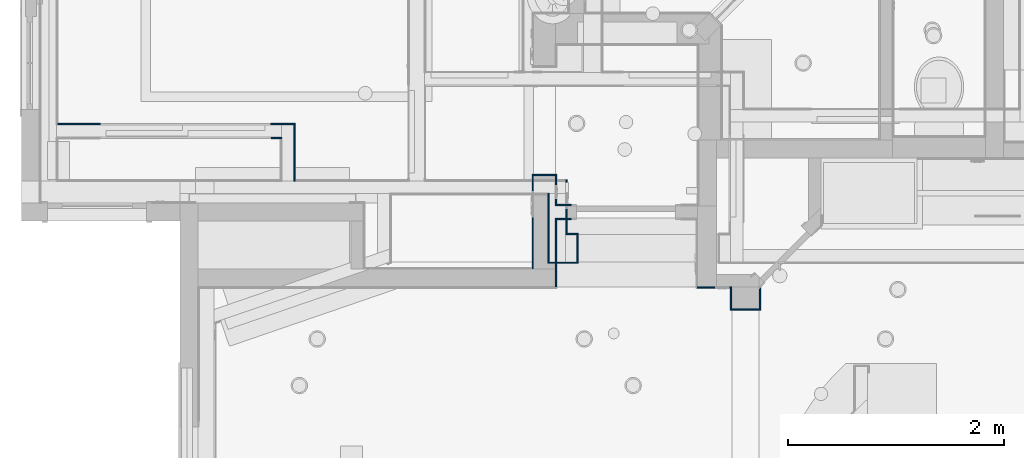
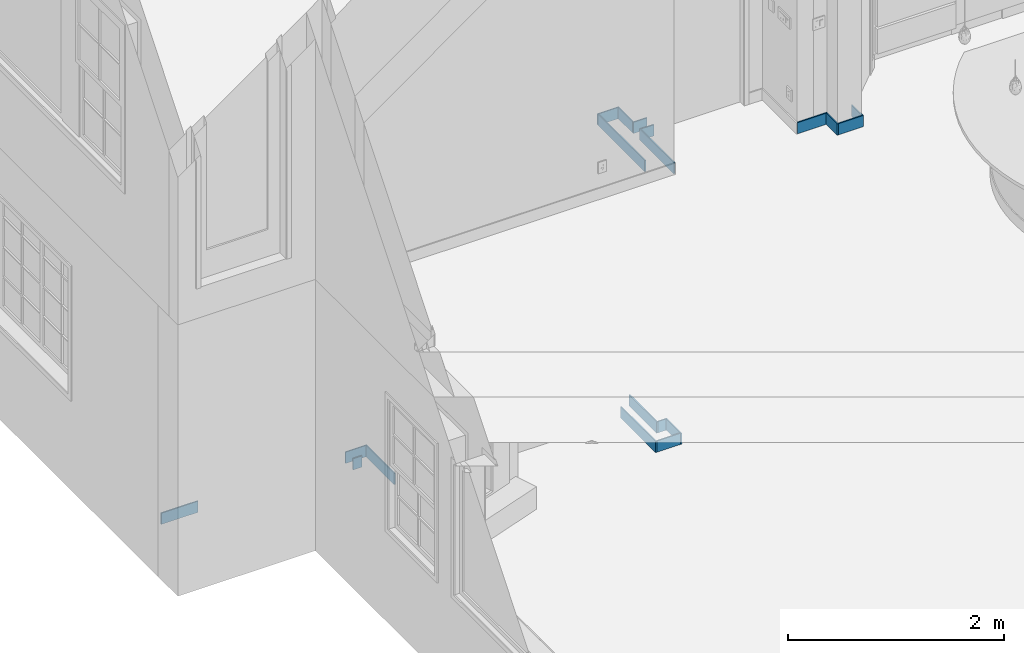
# One storey, part 22 of 81: 19 walls, 1 opening.
"""IFC2X3 building model written with IfcOpenShell, lengths in feet."""

import ifcopenshell
import ifcopenshell.guid

model = None  # the IFC model being written
_history = None  # IfcOwnerHistory: only IFC2X3 demands one
_inside = {}  # id of a spatial element -> (the spatial element, [elements in it])
_under = {}  # id of a project, library or spatial element -> (it, [spatial elements below it])
_declared = {}  # id of a project -> (the project, [libraries it declares])
_typed = {}  # id of a type object -> (the type object, [elements of that type])
_made_of = {}  # id of a material, layer set ... -> (it, [elements and type objects made of it])


def new_model(schema):
    """Start an empty IFC model of exactly this schema.

    Asked for "IFC4X3", IfcOpenShell would pick the latest addendum, in which some entities
    have other attributes; the version numbers below select the first issue.
    IFC2X3 requires an IfcOwnerHistory on every rooted entity: one is made here for all.
    """
    global model, _history
    if schema == "IFC4X3":
        model = ifcopenshell.file(schema_version=(4, 3, 0, 0))
    else:
        model = ifcopenshell.file(schema=schema)
    _inside.clear()
    _under.clear()
    _declared.clear()
    _typed.clear()
    _made_of.clear()
    _history = None
    if model.schema == "IFC2X3":
        org = make("IfcOrganization", Name="unknown")
        user = make(
            "IfcPersonAndOrganization",
            ThePerson=make("IfcPerson", FamilyName="unknown"),
            TheOrganization=org,
        )
        app = make(
            "IfcApplication",
            ApplicationDeveloper=org,
            Version="unknown",
            ApplicationFullName="unknown",
            ApplicationIdentifier="unknown",
        )
        _history = make(
            "IfcOwnerHistory",
            OwningUser=user,
            OwningApplication=app,
            ChangeAction="ADDED",
            CreationDate=0,
        )
    return model


def make(cls, **values):
    """One entity of the class cls with the attributes given. An attribute that is None is left unset."""
    return model.create_entity(
        cls, **{name: value for name, value in values.items() if value is not None}
    )


def entity(cls, *values):
    """Any entity or typed value of the class cls, its attributes in the order of the schema. None: left unset."""
    e = model.create_entity(cls)
    for i, value in enumerate(values):
        if value is not None:
            e[i] = value
    return e


def rooted(cls, **values):
    """An entity with a GlobalId (a new one), such as an element, a storey or a relation."""
    return make(cls, GlobalId=ifcopenshell.guid.new(), OwnerHistory=_history, **values)


def si_unit(unit_type, name, prefix=None):
    """IfcSIUnit, for example si_unit("LENGTHUNIT", "METRE", prefix="MILLI")."""
    return make("IfcSIUnit", UnitType=unit_type, Prefix=prefix, Name=name)


def converted_unit(unit_type, name, factor, base, dimensions=None, offset=None):
    """IfcConversionBasedUnit, such as the inch: factor (a typed value) times the base unit."""
    return make(
        "IfcConversionBasedUnit"
        if offset is None
        else "IfcConversionBasedUnitWithOffset",
        ConversionOffset=offset,
        Dimensions=None
        if dimensions is None
        else entity("IfcDimensionalExponents", *dimensions),
        UnitType=unit_type,
        Name=name,
        ConversionFactor=make(
            "IfcMeasureWithUnit", ValueComponent=factor, UnitComponent=base
        ),
    )


def derived_unit(unit_type, elements):
    """IfcDerivedUnit: a product of units, each with its exponent."""
    return make(
        "IfcDerivedUnit",
        Elements=[
            make("IfcDerivedUnitElement", Unit=unit, Exponent=power)
            for unit, power in elements
        ],
        UnitType=unit_type,
    )


def assignment(units):
    """IfcUnitAssignment: the units of a project."""
    return None if units is None else make("IfcUnitAssignment", Units=units)


def point(xyz):
    """IfcCartesianPoint."""
    return None if xyz is None else make("IfcCartesianPoint", Coordinates=xyz)


def direction(xyz):
    """IfcDirection."""
    return None if xyz is None else make("IfcDirection", DirectionRatios=xyz)


def frame(location, z_axis=None, x_axis=None):
    """IfcAxis2Placement3D, a coordinate frame: its origin and axes. An axis left out is left unset."""
    return make(
        "IfcAxis2Placement3D",
        Location=point(location),
        Axis=direction(z_axis),
        RefDirection=direction(x_axis),
    )


def frame_2d(location, x_axis=None):
    """IfcAxis2Placement2D, a coordinate frame in the plane: its origin and x axis."""
    return make(
        "IfcAxis2Placement2D", Location=point(location), RefDirection=direction(x_axis)
    )


def origin():
    """The frame at (0, 0, 0) with its axes left unset."""
    return frame((0.0, 0.0, 0.0))


def place(relative_to, where):
    """IfcLocalPlacement: puts the frame where relative to a parent placement (None: the world)."""
    return make(
        "IfcLocalPlacement", PlacementRelTo=relative_to, RelativePlacement=where
    )


def context(
    kind, dimensions, precision=None, world=None, true_north=None, identifier=None
):
    """IfcGeometricRepresentationContext, for example the 3D "Model" context."""
    return make(
        "IfcGeometricRepresentationContext",
        ContextIdentifier=identifier,
        ContextType=kind,
        CoordinateSpaceDimension=dimensions,
        Precision=precision,
        WorldCoordinateSystem=world,
        TrueNorth=true_north,
    )


def subcontext(parent, identifier, kind, view, scale=None):
    """IfcGeometricRepresentationSubContext, for example "Body" below "Model"."""
    return make(
        "IfcGeometricRepresentationSubContext",
        ContextIdentifier=identifier,
        ContextType=kind,
        ParentContext=parent,
        TargetScale=scale,
        TargetView=view,
    )


def project(units=None, contexts=None):
    """IfcProject with its units and contexts."""
    return rooted(
        "IfcProject",
        Name="project",
        RepresentationContexts=contexts,
        UnitsInContext=assignment(units),
    )


def spatial(cls, under=None, at=None, **own):
    """A site, building, storey or space (cls), placed at a placement, below another one or the project."""
    s = rooted(cls, ObjectPlacement=at, **own)
    if under is not None:
        _under.setdefault(under.id(), (under, []))[1].append(s)
    return s


def polyline(points):
    """IfcPolyline through the points."""
    return make("IfcPolyline", Points=[point(p) for p in points])


def profile(cls, at=None, kind="AREA", **sizes):
    """A parametric profile (cls). Its sizes go by their IFC names, for example OverallWidth=200.0."""
    return make(cls, ProfileType=kind, Position=at, **sizes)


def rectangle(**sizes):
    """IfcRectangleProfileDef."""
    return profile("IfcRectangleProfileDef", **sizes)


def outline(outer, holes=None, kind="AREA"):
    """IfcArbitraryClosedProfileDef: a profile drawn as a closed curve; with holes, ...WithVoids."""
    if holes is None:
        return make("IfcArbitraryClosedProfileDef", ProfileType=kind, OuterCurve=outer)
    return make(
        "IfcArbitraryProfileDefWithVoids",
        ProfileType=kind,
        OuterCurve=outer,
        InnerCurves=holes,
    )


def extrude(swept, where, along, depth):
    """IfcExtrudedAreaSolid: the profile swept, set in the frame where, extruded along a direction by depth."""
    return make(
        "IfcExtrudedAreaSolid",
        SweptArea=swept,
        Position=where,
        ExtrudedDirection=direction(along),
        Depth=depth,
    )


def shape(context_of_items, identifier, shape_type, items):
    """IfcShapeRepresentation: the items that make up one representation, for example the "Body"."""
    return make(
        "IfcShapeRepresentation",
        ContextOfItems=context_of_items,
        RepresentationIdentifier=identifier,
        RepresentationType=shape_type,
        Items=items,
    )


def material(Name=None, Category=None):
    """IfcMaterial."""
    return make("IfcMaterial", Name=Name, Category=Category)


def layer(
    of_material, thickness, ventilated=None, Name=None, Category=None, Priority=None
):
    """IfcMaterialLayer: one layer of a wall or slab, of a material (None: an air gap)."""
    return make(
        "IfcMaterialLayer",
        Material=of_material,
        LayerThickness=thickness,
        IsVentilated=ventilated,
        Name=Name,
        Category=Category,
        Priority=Priority,
    )


def layer_set(layers, Name=None):
    """IfcMaterialLayerSet."""
    return make("IfcMaterialLayerSet", MaterialLayers=layers, LayerSetName=Name)


def layer_usage(for_layer_set, set_direction, sense, offset, extent=None):
    """IfcMaterialLayerSetUsage: how a layer set lies in its element."""
    return make(
        "IfcMaterialLayerSetUsage",
        ForLayerSet=for_layer_set,
        LayerSetDirection=set_direction,
        DirectionSense=sense,
        OffsetFromReferenceLine=offset,
        ReferenceExtent=extent,
    )


def made_of(thing, what):
    """Note that an element or type object is made of a material, layer set ...; save() writes the relation."""
    if what is not None:
        _made_of.setdefault(what.id(), (what, []))[1].append(thing)
    return thing


def type_object(cls, material=None, **own):
    """A type object (cls), such as IfcWallType, which elements share."""
    return made_of(rooted(cls, **own), material)


def element(
    cls,
    number,
    at=None,
    inside=None,
    cuts=None,
    type_object=None,
    material=None,
    context=None,
    identifier="Body",
    shape_type=None,
    held_by="IfcProductDefinitionShape",
    body=None,
    shapes=None,
    **own,
):
    """One element of the class cls, such as IfcWall. Its Tag is "e" and its number.

    at: its placement. inside: the storey or other place that contains it. cuts: it is an
    opening in that element (IfcRelVoidsElement). A single representation is given by context,
    identifier, shape_type and body (its items); several are given by shapes. held_by: the class
    of the entity that holds the representations. save() writes the other relations.
    """
    e = rooted(cls, Tag="e%d" % number, ObjectPlacement=at, **own)
    if body is not None:
        shapes = [shape(context, identifier, shape_type, body)]
    if shapes is not None:
        e.Representation = make(held_by, Representations=shapes)
    if inside is not None:
        _inside.setdefault(inside.id(), (inside, []))[1].append(e)
    if cuts is not None:
        rooted(
            "IfcRelVoidsElement", RelatingBuildingElement=cuts, RelatedOpeningElement=e
        )
    if type_object is not None:
        _typed.setdefault(type_object.id(), (type_object, []))[1].append(e)
    return made_of(e, material)


def aggregate(whole, parts):
    """IfcRelAggregates: a whole, such as a stair, and the parts it consists of."""
    return rooted("IfcRelAggregates", RelatingObject=whole, RelatedObjects=parts)


def save(model, path):
    """Write the relations noted so far, then the file.

    IfcRelAggregates (storeys below a building ...), IfcRelContainedInSpatialStructure (elements
    in a storey), IfcRelDefinesByType, IfcRelAssociatesMaterial and IfcRelDeclares: one each for
    every whole, place, type object, material and project.
    """
    for whole, parts in _under.values():
        aggregate(whole, parts)
    for where, things in _inside.values():
        rooted(
            "IfcRelContainedInSpatialStructure",
            RelatedElements=things,
            RelatingStructure=where,
        )
    for kind, things in _typed.values():
        rooted("IfcRelDefinesByType", RelatedObjects=things, RelatingType=kind)
    for what, things in _made_of.values():
        rooted("IfcRelAssociatesMaterial", RelatedObjects=things, RelatingMaterial=what)
    for by, libraries in _declared.values():
        rooted("IfcRelDeclares", RelatingContext=by, RelatedDefinitions=libraries)
    model.write(path)


model = new_model("IFC2X3")

# Units and contexts
model_context = context("Model", 3, precision=0.0001, world=origin(), true_north=direction((6.12303176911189e-17, 1.0)))
body_context = subcontext(model_context, "Body", "Model", "MODEL_VIEW")
ifc_project = project(units=[converted_unit("LENGTHUNIT", "FOOT", entity("IfcRatioMeasure", 0.3048), si_unit("LENGTHUNIT", "METRE"), dimensions=[1, 0, 0, 0, 0, 0, 0]), converted_unit("AREAUNIT", "SQUARE FOOT", entity("IfcRatioMeasure", 0.09290304), si_unit("AREAUNIT", "SQUARE_METRE"), dimensions=[2, 0, 0, 0, 0, 0, 0]), converted_unit("VOLUMEUNIT", "CUBIC FOOT", entity("IfcRatioMeasure", 0.028316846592), si_unit("VOLUMEUNIT", "CUBIC_METRE"), dimensions=[3, 0, 0, 0, 0, 0, 0]), converted_unit("PLANEANGLEUNIT", "DEGREE", entity("IfcRatioMeasure", 0.0174532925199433), si_unit("PLANEANGLEUNIT", "RADIAN"), dimensions=[0, 0, 0, 0, 0, 0, 0]), si_unit("MASSUNIT", "GRAM", prefix="KILO"), derived_unit("MASSDENSITYUNIT", [(si_unit("MASSUNIT", "GRAM", prefix="KILO"), 1), (si_unit("LENGTHUNIT", "METRE"), -3)]), derived_unit("MOMENTOFINERTIAUNIT", [(si_unit("LENGTHUNIT", "METRE"), 4)]), si_unit("TIMEUNIT", "SECOND"), si_unit("FREQUENCYUNIT", "HERTZ"), si_unit("THERMODYNAMICTEMPERATUREUNIT", "DEGREE_CELSIUS"), derived_unit("THERMALTRANSMITTANCEUNIT", [(si_unit("MASSUNIT", "GRAM", prefix="KILO"), 1), (si_unit("THERMODYNAMICTEMPERATUREUNIT", "KELVIN"), -1), (si_unit("TIMEUNIT", "SECOND"), -3)]), derived_unit("VOLUMETRICFLOWRATEUNIT", [(si_unit("LENGTHUNIT", "METRE"), 3), (si_unit("TIMEUNIT", "SECOND"), -1)]), si_unit("ELECTRICCURRENTUNIT", "AMPERE"), si_unit("ELECTRICVOLTAGEUNIT", "VOLT"), si_unit("POWERUNIT", "WATT"), si_unit("FORCEUNIT", "NEWTON"), si_unit("ILLUMINANCEUNIT", "LUX"), si_unit("LUMINOUSFLUXUNIT", "LUMEN"), si_unit("LUMINOUSINTENSITYUNIT", "CANDELA"), derived_unit("USERDEFINED", [(si_unit("MASSUNIT", "GRAM", prefix="KILO"), -1), (si_unit("LENGTHUNIT", "METRE"), -2), (si_unit("TIMEUNIT", "SECOND"), 3), (si_unit("LUMINOUSFLUXUNIT", "LUMEN"), 1)]), derived_unit("LINEARVELOCITYUNIT", [(si_unit("LENGTHUNIT", "METRE"), 1), (si_unit("TIMEUNIT", "SECOND"), -1)]), si_unit("PRESSUREUNIT", "PASCAL"), derived_unit("USERDEFINED", [(si_unit("LENGTHUNIT", "METRE"), -2), (si_unit("MASSUNIT", "GRAM", prefix="KILO"), 1), (si_unit("TIMEUNIT", "SECOND"), -2)]), derived_unit("LINEARFORCEUNIT", [(si_unit("MASSUNIT", "GRAM", prefix="KILO"), 1), (si_unit("LENGTHUNIT", "METRE"), 1), (si_unit("TIMEUNIT", "SECOND"), -2), (si_unit("LENGTHUNIT", "METRE"), -1)]), derived_unit("PLANARFORCEUNIT", [(si_unit("MASSUNIT", "GRAM", prefix="KILO"), 1), (si_unit("LENGTHUNIT", "METRE"), 1), (si_unit("TIMEUNIT", "SECOND"), -2), (si_unit("LENGTHUNIT", "METRE"), -2)])], contexts=[model_context])

# Site, building, storey
site_placement = place(None, origin())
site = spatial("IfcSite", under=ifc_project, at=site_placement, Name="Default", CompositionType="ELEMENT")
building_placement = place(site_placement, origin())
building = spatial("IfcBuilding", under=site, at=building_placement, CompositionType="ELEMENT")
storey_placement = place(building_placement, origin())
storey = spatial("IfcBuildingStorey", under=building, at=storey_placement, Name="First floor", CompositionType="ELEMENT", Elevation=0.0)

# Walls
ifc_material = material(Name="Default New Material")
ifc_layer = layer(ifc_material, 0.0416666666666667)
ifc_layer_set = layer_set([ifc_layer], Name="Basic Wall:Wall Border_T1")
ifc_layer_usage_1 = layer_usage(ifc_layer_set, "AXIS2", "POSITIVE", -0.0208333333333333)
wall_type = type_object("IfcWallType", Name="Basic Wall:Wall Border_T1", PredefinedType="STANDARD", material=ifc_layer_set)
wall_1_placement = place(storey_placement, frame((-5.85416666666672, 31.8749999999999, 0.0), z_axis=(0.0, 0.0, 1.0), x_axis=(0.0, -1.0, 0.0)))
element("IfcWallStandardCase", 1, at=wall_1_placement, inside=storey, type_object=wall_type, material=ifc_layer_usage_1, Name="Basic Wall:Wall Border_T1", ObjectType="Basic Wall:Wall Border_T1", context=body_context, shape_type="SweptSolid", body=[
    extrude(rectangle(XDim=2.12499999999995, YDim=0.0416666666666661, at=frame_2d((1.06249999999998, 3.46944695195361e-17), x_axis=(-1.0, 0.0))), origin(), (0.0, 0.0, 1.0), 0.416666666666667),
])
ifc_layer_usage_2 = layer_usage(ifc_layer_set, "AXIS2", "POSITIVE", -0.0208333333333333)
wall_2_placement = place(storey_placement, frame((-5.83333333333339, 29.7708333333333, 0.0)))
element("IfcWallStandardCase", 2, at=wall_2_placement, inside=storey, type_object=wall_type, material=ifc_layer_usage_2, Name="Basic Wall:Wall Border_T1", ObjectType="Basic Wall:Wall Border_T1", context=body_context, shape_type="SweptSolid", body=[
    extrude(rectangle(XDim=0.833333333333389, YDim=0.0416666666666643, at=frame_2d((0.416666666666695, 0.0), x_axis=(-1.0, 0.0))), origin(), (0.0, 0.0, 1.0), 0.416666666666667),
])
ifc_layer_usage_3 = layer_usage(ifc_layer_set, "AXIS2", "POSITIVE", -0.0208333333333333)
wall_3_placement = place(storey_placement, frame((-4.97916666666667, 29.75, 0.0), z_axis=(0.0, 0.0, 1.0), x_axis=(0.0, 1.0, 0.0)))
element("IfcWallStandardCase", 3, at=wall_3_placement, inside=storey, type_object=wall_type, material=ifc_layer_usage_3, Name="Basic Wall:Wall Border_T1", ObjectType="Basic Wall:Wall Border_T1", context=body_context, shape_type="SweptSolid", body=[
    extrude(rectangle(XDim=0.916666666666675, YDim=0.0416666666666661, at=frame_2d((0.458333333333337, 8.84708972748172e-17), x_axis=(-1.0, 0.0))), origin(), (0.0, 0.0, 1.0), 0.416666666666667),
])
ifc_layer_usage_4 = layer_usage(ifc_layer_set, "AXIS2", "POSITIVE", -0.0208333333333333)
wall_4_placement = place(storey_placement, frame((-5.0, 30.6458333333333, 0.0), z_axis=(0.0, 0.0, 1.0), x_axis=(-1.0, 0.0, 0.0)))
element("IfcWallStandardCase", 4, at=wall_4_placement, inside=storey, type_object=wall_type, material=ifc_layer_usage_4, Name="Basic Wall:Wall Border_T1", ObjectType="Basic Wall:Wall Border_T1", context=body_context, shape_type="SweptSolid", body=[
    extrude(rectangle(XDim=0.291666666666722, YDim=0.0416666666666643, at=frame_2d((0.145833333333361, 0.0), x_axis=(-1.0, 0.0))), origin(), (0.0, 0.0, 1.0), 0.416666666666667),
])
ifc_layer_usage_5 = layer_usage(ifc_layer_set, "AXIS2", "POSITIVE", -0.0208333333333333)
wall_5_placement = place(storey_placement, frame((-5.31250000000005, 30.625, 0.0), z_axis=(0.0, 0.0, 1.0), x_axis=(0.0, 1.0, 0.0)))
element("IfcWallStandardCase", 5, at=wall_5_placement, inside=storey, type_object=wall_type, material=ifc_layer_usage_5, Name="Basic Wall:Wall Border_T1", ObjectType="Basic Wall:Wall Border_T1", context=body_context, shape_type="SweptSolid", body=[
    extrude(rectangle(XDim=1.66666666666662, YDim=0.0416666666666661, at=frame_2d((0.833333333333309, 3.46944695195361e-17), x_axis=(-1.0, 0.0))), origin(), (0.0, 0.0, 1.0), 0.416666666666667),
])
ifc_layer_usage_6 = layer_usage(ifc_layer_set, "AXIS2", "POSITIVE", -0.0208333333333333)
wall_6_placement = place(storey_placement, frame((-14.2708333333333, 33.5625, 0.0)))
element("IfcWallStandardCase", 6, at=wall_6_placement, inside=storey, type_object=wall_type, material=ifc_layer_usage_6, Name="Basic Wall:Wall Border_T1", ObjectType="Basic Wall:Wall Border_T1", context=body_context, shape_type="SweptSolid", body=[
    extrude(rectangle(XDim=0.312499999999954, YDim=0.0416666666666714, at=frame_2d((0.156249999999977, 0.0), x_axis=(-1.0, 0.0))), origin(), (0.0, 0.0, 1.0), 0.416666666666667),
])
ifc_layer_usage_7 = layer_usage(ifc_layer_set, "AXIS2", "POSITIVE", -0.0208333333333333)
wall_7_placement = place(storey_placement, frame((-20.75, 33.9791666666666, 0.0)))
element("IfcWallStandardCase", 7, at=wall_7_placement, inside=storey, type_object=wall_type, material=ifc_layer_usage_7, Name="Basic Wall:Wall Border_T1", ObjectType="Basic Wall:Wall Border_T1", context=body_context, shape_type="SweptSolid", body=[
    extrude(rectangle(XDim=1.29166666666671, YDim=0.0416666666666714, at=frame_2d((0.645833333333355, -5.72458747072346e-17), x_axis=(-1.0, 0.0))), origin(), (0.0, 0.0, 1.0), 0.416666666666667),
])
ifc_layer_usage_8 = layer_usage(ifc_layer_set, "AXIS2", "POSITIVE", -0.0208333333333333)
wall_8_placement = place(storey_placement, frame((-13.5625000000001, 32.25, 0.0), z_axis=(0.0, 0.0, 1.0), x_axis=(0.0, 1.0, 0.0)))
element("IfcWallStandardCase", 8, at=wall_8_placement, inside=storey, type_object=wall_type, material=ifc_layer_usage_8, Name="Basic Wall:Wall Border_T1", ObjectType="Basic Wall:Wall Border_T1", context=body_context, shape_type="SweptSolid", body=[
    extrude(rectangle(XDim=1.70833333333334, YDim=0.0416666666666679, at=frame_2d((0.854166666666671, 0.0), x_axis=(-1.0, 0.0))), origin(), (0.0, 0.0, 1.0), 0.416666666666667),
])
ifc_layer_usage_9 = layer_usage(ifc_layer_set, "AXIS2", "POSITIVE", -0.0208333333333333)
wall_9_placement = place(storey_placement, frame((-13.5416666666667, 33.9791666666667, 0.0), z_axis=(0.0, 0.0, 1.0), x_axis=(-1.0, 0.0, 0.0)))
element("IfcWallStandardCase", 9, at=wall_9_placement, inside=storey, type_object=wall_type, material=ifc_layer_usage_9, Name="Basic Wall:Wall Border_T1", ObjectType="Basic Wall:Wall Border_T1", context=body_context, shape_type="SweptSolid", body=[
    extrude(rectangle(XDim=0.749999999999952, YDim=0.0416666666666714, at=frame_2d((0.374999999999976, 0.0), x_axis=(-1.0, 0.0))), origin(), (0.0, 0.0, 1.0), 0.416666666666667),
])
ifc_layer_usage_10 = layer_usage(ifc_layer_set, "AXIS2", "NEGATIVE", 0.0208333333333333)
wall_10_placement = place(storey_placement, frame((-5.6041666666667, 32.4375, 10.6666666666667), z_axis=(0.0, 0.0, 1.0), x_axis=(-1.0, 0.0, 0.0)))
element("IfcWallStandardCase", 10, at=wall_10_placement, inside=storey, type_object=wall_type, material=ifc_layer_usage_10, Name="Basic Wall:Wall Border_T1", ObjectType="Basic Wall:Wall Border_T1", context=body_context, shape_type="SweptSolid", body=[
    extrude(rectangle(XDim=0.750000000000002, YDim=0.0416666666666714, at=frame_2d((0.375000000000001, -2.35055030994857e-15), x_axis=(-1.0, 0.0))), origin(), (0.0, 0.0, 1.0), 0.416666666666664),
])
ifc_layer_usage_11 = layer_usage(ifc_layer_set, "AXIS2", "NEGATIVE", 0.0208333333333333)
wall_11_placement = place(storey_placement, frame((-6.33333333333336, 32.4166666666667, 10.6666666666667), z_axis=(0.0, 0.0, 1.0), x_axis=(0.0, -1.0, 0.0)))
element("IfcWallStandardCase", 11, at=wall_11_placement, inside=storey, type_object=wall_type, material=ifc_layer_usage_11, Name="Basic Wall:Wall Border_T1", ObjectType="Basic Wall:Wall Border_T1", context=body_context, shape_type="SweptSolid", body=[
    extrude(rectangle(XDim=2.83333333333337, YDim=0.0416666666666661, at=frame_2d((1.41666666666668, 3.50414142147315e-16), x_axis=(-1.0, 0.0))), origin(), (0.0, 0.0, 1.0), 0.416666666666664),
])
ifc_layer_usage_12 = layer_usage(ifc_layer_set, "AXIS2", "NEGATIVE", 0.0208333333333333)
wall_12_placement = place(storey_placement, frame((-5.16666666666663, 31.5208333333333, 10.6666666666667), z_axis=(0.0, 0.0, 1.0), x_axis=(-1.0, 0.0, 0.0)))
element("IfcWallStandardCase", 12, at=wall_12_placement, inside=storey, type_object=wall_type, material=ifc_layer_usage_12, Name="Basic Wall:Wall Border_T1", ObjectType="Basic Wall:Wall Border_T1", context=body_context, shape_type="SweptSolid", body=[
    extrude(rectangle(XDim=0.479166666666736, YDim=0.0416666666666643, at=frame_2d((0.239583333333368, 0.0), x_axis=(-1.0, 0.0))), origin(), (0.0, 0.0, 1.0), 0.416666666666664),
])
ifc_layer_usage_13 = layer_usage(ifc_layer_set, "AXIS2", "NEGATIVE", 0.0208333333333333)
wall_13_placement = place(storey_placement, frame((-5.62500000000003, 31.5416666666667, 10.6666666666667), z_axis=(0.0, 0.0, 1.0), x_axis=(0.0, 1.0, 0.0)))
element("IfcWallStandardCase", 13, at=wall_13_placement, inside=storey, type_object=wall_type, material=ifc_layer_usage_13, Name="Basic Wall:Wall Border_T1", ObjectType="Basic Wall:Wall Border_T1", context=body_context, shape_type="SweptSolid", body=[
    extrude(rectangle(XDim=0.875000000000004, YDim=0.0416666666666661, at=frame_2d((0.437500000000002, 0.0), x_axis=(-1.0, 0.0))), origin(), (0.0, 0.0, 1.0), 0.416666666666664),
])
ifc_layer_usage_14 = layer_usage(ifc_layer_set, "AXIS2", "POSITIVE", -0.0208333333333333)
wall_14_placement = place(storey_placement, frame((-5.62500000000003, 29.0416666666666, 10.6666666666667), z_axis=(0.0, 0.0, 1.0), x_axis=(0.0, 1.0, 0.0)))
element("IfcWallStandardCase", 14, at=wall_14_placement, inside=storey, type_object=wall_type, material=ifc_layer_usage_14, Name="Basic Wall:Wall Border_T1", ObjectType="Basic Wall:Wall Border_T1", context=body_context, shape_type="SweptSolid", body=[
    extrude(rectangle(XDim=2.08333333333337, YDim=0.0416666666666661, at=frame_2d((1.04166666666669, 0.0), x_axis=(-1.0, 0.0))), origin(), (0.0, 0.0, 1.0), 0.416666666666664),
])
ifc_layer_usage_15 = layer_usage(ifc_layer_set, "AXIS2", "POSITIVE", -0.0208333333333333)
wall_15_placement = place(storey_placement, frame((-5.6041666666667, 31.1041666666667, 10.6666666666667)))
element("IfcWallStandardCase", 15, at=wall_15_placement, inside=storey, type_object=wall_type, material=ifc_layer_usage_15, Name="Basic Wall:Wall Border_T1", ObjectType="Basic Wall:Wall Border_T1", context=body_context, shape_type="SweptSolid", body=[
    extrude(rectangle(XDim=0.437500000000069, YDim=0.0416666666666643, at=frame_2d((0.218750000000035, 0.0), x_axis=(-1.0, 0.0))), origin(), (0.0, 0.0, 1.0), 0.416666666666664),
])
ifc_layer_usage_16 = layer_usage(ifc_layer_set, "AXIS2", "POSITIVE", -0.0208333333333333)
wall_16_placement = place(storey_placement, frame((-1.33333333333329, 29.0208333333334, 10.6666666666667)))
element("IfcWallStandardCase", 16, at=wall_16_placement, inside=storey, type_object=wall_type, material=ifc_layer_usage_16, Name="Basic Wall:Wall Border_T1", ObjectType="Basic Wall:Wall Border_T1", context=body_context, shape_type="SweptSolid", body=[
    extrude(rectangle(XDim=1.04166666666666, YDim=0.0416666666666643, at=frame_2d((0.520833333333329, 0.0), x_axis=(-1.0, 0.0))), origin(), (0.0, 0.0, 1.0), 0.416666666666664),
])
ifc_layer_usage_17 = layer_usage(ifc_layer_set, "AXIS2", "POSITIVE", -0.0208333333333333)
wall_17_placement = place(storey_placement, frame((-0.312499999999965, 29.0, 10.6666666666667), z_axis=(0.0, 0.0, 1.0), x_axis=(0.0, -1.0, 0.0)))
element("IfcWallStandardCase", 17, at=wall_17_placement, inside=storey, type_object=wall_type, material=ifc_layer_usage_17, Name="Basic Wall:Wall Border_T1", ObjectType="Basic Wall:Wall Border_T1", context=body_context, shape_type="SweptSolid", body=[
    extrude(rectangle(XDim=0.666666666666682, YDim=0.0416666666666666, at=frame_2d((0.333333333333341, 5.20417042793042e-18), x_axis=(-1.0, 0.0))), origin(), (0.0, 0.0, 1.0), 0.416666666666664),
])
ifc_layer_usage_18 = layer_usage(ifc_layer_set, "AXIS2", "POSITIVE", -0.0208333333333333)
wall_18_placement = place(storey_placement, frame((-0.291666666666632, 28.3541666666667, 10.6666666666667)))
element("IfcWallStandardCase", 18, at=wall_18_placement, inside=storey, type_object=wall_type, material=ifc_layer_usage_18, Name="Basic Wall:Wall Border_T1", ObjectType="Basic Wall:Wall Border_T1", context=body_context, shape_type="SweptSolid", body=[
    extrude(rectangle(XDim=0.875, YDim=0.0416666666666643, at=frame_2d((0.4375, 8.84708972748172e-17), x_axis=(-1.0, 0.0))), origin(), (0.0, 0.0, 1.0), 0.416666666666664),
])

# Wall, opening
ifc_layer_usage_19 = layer_usage(ifc_layer_set, "AXIS2", "POSITIVE", -0.0208333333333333)
wall_19_placement = place(storey_placement, frame((0.562500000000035, 28.375, 10.6666666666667), z_axis=(0.0, 0.0, 1.0), x_axis=(0.0, 1.0, 0.0)))
wall_19 = element("IfcWallStandardCase", 19, at=wall_19_placement, inside=storey, type_object=wall_type, material=ifc_layer_usage_19, Name="Basic Wall:Wall Border_T1", ObjectType="Basic Wall:Wall Border_T1", context=body_context, shape_type="SweptSolid", body=[
    extrude(outline(polyline([(0.649407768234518, -0.0208333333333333), (0.60774110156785, 0.0208333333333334), (0.0, 0.0208333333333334), (0.0, -0.0208333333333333), (0.649407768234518, -0.0208333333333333)])), origin(), (0.0, 0.0, 1.0), 0.416666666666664),
])
opening_placement = place(wall_19_placement, origin())
element("IfcOpeningElement", 20, at=opening_placement, cuts=wall_19, Name="Basic Wall:Wall Border_T1", ObjectType="Opening", context=body_context, shape_type="SweptSolid", body=[
    extrude(rectangle(XDim=8.0, YDim=2.0, at=frame_2d((-1.99840144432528e-15, -8.88178419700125e-16), x_axis=(0.0, 1.0))), frame((1.52117727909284, -0.833677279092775, 4.0), z_axis=(0.707106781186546, 0.70710678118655, 0.0), x_axis=(-0.70710678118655, 0.707106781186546, 0.0)), (0.0, 0.0, 1.0), 0.374999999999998),
])

save(model, "model.ifc")
